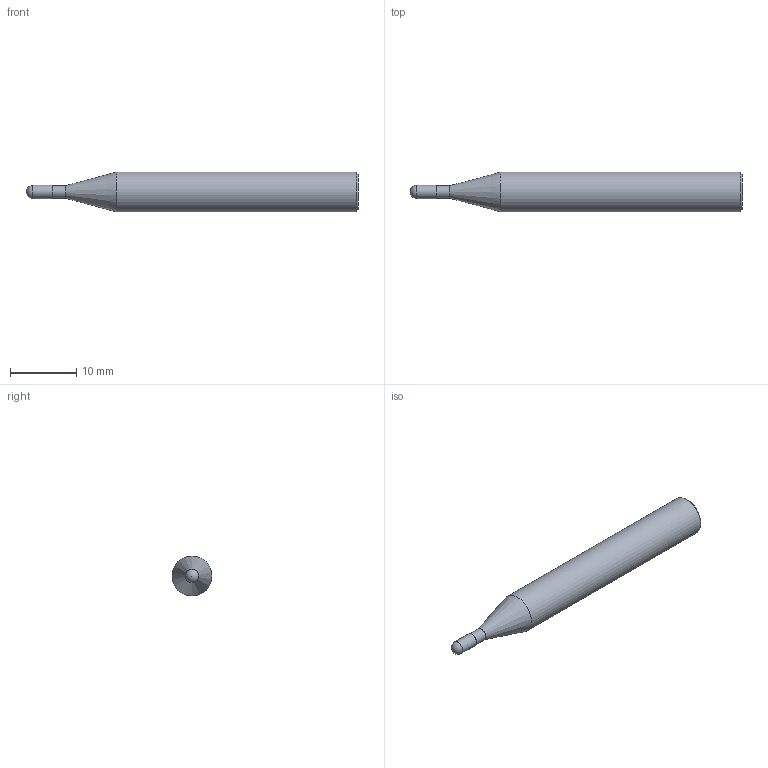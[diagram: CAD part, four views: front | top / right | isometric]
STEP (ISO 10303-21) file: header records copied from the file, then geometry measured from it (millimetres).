
FILE_DESCRIPTION(/* description */ (''),/* implementation_level */ '2;1');
FILE_NAME(/* name */ 'HSXBC4020 0650.stp',/* time_stamp */ '2026-01-27T10:25:19+08:00',/* author */ (''),/* organization */ (''),/* preprocessor_version */ 'ST-DEVELOPER v16',/* originating_system */ 'SIEMENS PLM Software NX 10.0',/* authorisation */ '');
FILE_SCHEMA (('CONFIG_CONTROL_DESIGN'));
Length unit declared in the file: millimetre
Products named in the file (1): HSXBC4020 0650_dxf
Bounding box: 50 x 6 x 6 mm (x, y, z)
Volume: 1146.1 mm3; surface area: 845.6 mm2
Topology: 1 solids, 1 shells, 8 faces, 15 edges, 9 vertices
Faces by surface type: cylinder 3, plane 2, cone 2, sphere 1
Full cylindrical faces by diameter (mm): 1.9 x1, 2 x1, 6 x1
Entity records: 238 total; most frequent: DIRECTION 32, CARTESIAN_POINT 23, AXIS2_PLACEMENT_3D 16, EDGE_LOOP 14, ORIENTED_EDGE 14, FACE_BOUND 12, ADVANCED_FACE 8, PERSON_AND_ORGANIZATION 7
